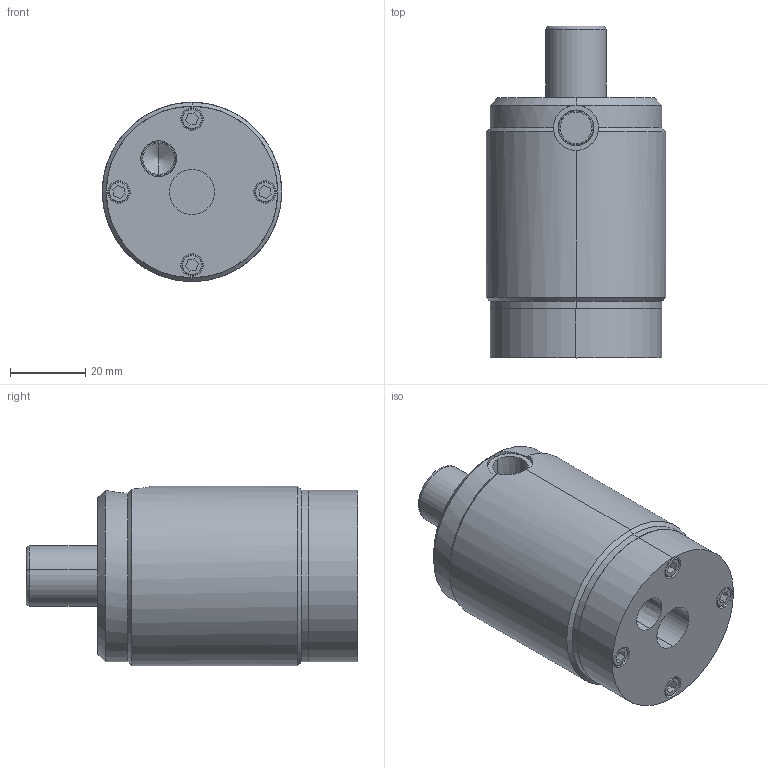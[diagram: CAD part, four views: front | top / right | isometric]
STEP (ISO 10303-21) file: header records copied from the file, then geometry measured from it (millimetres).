
FILE_DESCRIPTION((''),'2;1');
FILE_NAME('001_DESTACO_035_910_ASM','2024-02-28T',('SYSTEM'),(''),'PRO/ENGINEER BY PARAMETRIC TECHNOLOGY CORPORATION, 2016360','PRO/ENGINEER BY PARAMETRIC TECHNOLOGY CORPORATION, 2016360','');
FILE_SCHEMA(('AUTOMOTIVE_DESIGN { 1 0 10303 214 1 1 1 1 }'));
Products named in the file (10): 132BODY_5_RNM; 132BODY_4_RNM; 132BODY_3_RNM; 132BODY_2_RNM; 132BODY_1_RNM; 132BODY_0_RNM; 132-BODY_ASM; 132BODY_6_RNM; 132-SHAFT_ASM; 001_DESTACO_035_910_ASM
Assembly tree (9 placements, depth 3):
  001_DESTACO_035_910_ASM
    132-BODY_ASM
      132BODY_5_RNM
      132BODY_4_RNM
      132BODY_3_RNM
      132BODY_2_RNM
      132BODY_1_RNM
      132BODY_0_RNM
    132-SHAFT_ASM
      132BODY_6_RNM
Bounding box: 47.62 x 88.05 x 47.62 mm (x, y, z)
Volume: 118238.7 mm3; surface area: 26051.8 mm2
Topology: 7 solids, 7 shells, 158 faces, 344 edges, 209 vertices
Faces by surface type: cylinder 62, plane 54, cone 40, torus 2
Entity records: 6085 total; most frequent: CARTESIAN_POINT 868, DIRECTION 848, ORIENTED_EDGE 664, PRESENTATION_STYLE_ASSIGNMENT 339, STYLED_ITEM 339, AXIS2_PLACEMENT_3D 338, CURVE_STYLE 332, EDGE_CURVE 332
